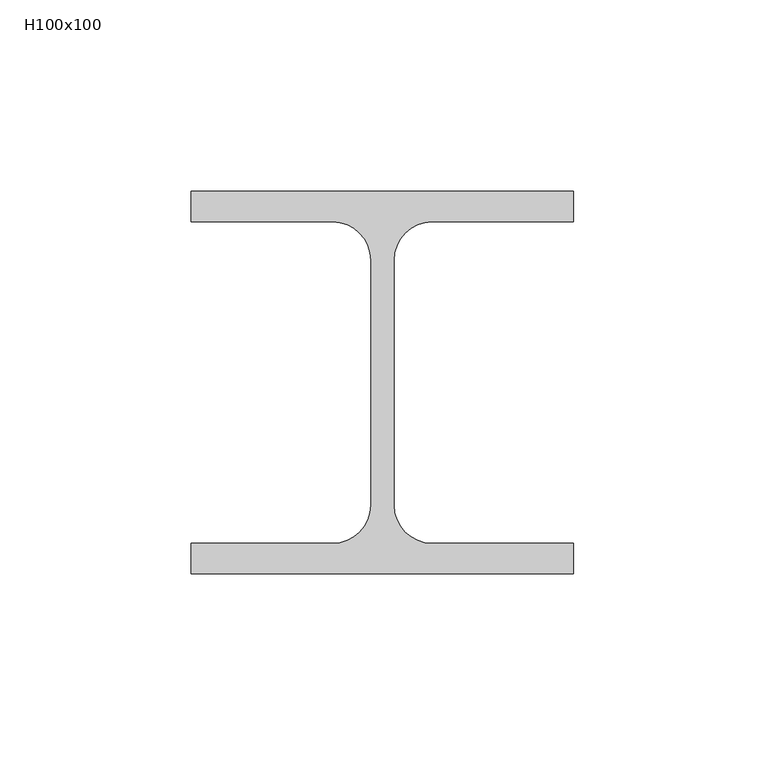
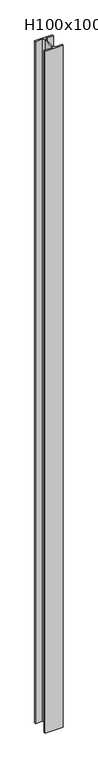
"""IFC4 building model written with IfcOpenShell, lengths in millimetres: column geometry, H 型鋼柱 : H100x100."""

from ifc_helpers import new_model, si_unit, point, frame_2d, origin, origin_with_axes, place, context, project, spatial, polyline, circle_curve, trimmed, segment, composite_curve, outline, extrude, source, transform, mapped, element, save


def h100x100_6f83902f(model_context):
    return source(origin(), model_context, "Body", "SweptSolid", [
        extrude(outline(composite_curve([segment(polyline([(50.0, 50.0), (50.0, 42.0), (13.0, 42.0)]), True, "CONTINUOUS"), segment(trimmed(circle_curve(frame_2d((13.0, 32.0)), 10.0), [point((13.0, 42.0))], [point((3.0, 32.0))], True, "CARTESIAN"), True, "CONTINUOUS"), segment(polyline([(3.0, 32.0), (3.0, -32.0)]), True, "CONTINUOUS"), segment(trimmed(circle_curve(frame_2d((13.0, -32.0)), 10.0), [point((3.0, -32.0))], [point((13.0, -42.0))], True, "CARTESIAN"), True, "CONTINUOUS"), segment(polyline([(13.0, -42.0), (50.0, -42.0), (50.0, -50.0), (-50.0, -50.0), (-50.0, -42.0), (-13.0, -42.0)]), True, "CONTINUOUS"), segment(trimmed(circle_curve(frame_2d((-13.0, -32.0)), 10.0), [point((-13.0, -42.0))], [point((-3.0, -32.0))], True, "CARTESIAN"), True, "CONTINUOUS"), segment(polyline([(-3.0, -32.0), (-3.0, 32.0)]), True, "CONTINUOUS"), segment(trimmed(circle_curve(frame_2d((-13.0, 32.0)), 10.0), [point((-3.0, 32.0))], [point((-13.0, 42.0))], True, "CARTESIAN"), True, "CONTINUOUS"), segment(polyline([(-13.0, 42.0), (-50.0, 42.0), (-50.0, 50.0), (50.0, 50.0)]), True, "CONTINUOUS")], self_intersect=False)), origin_with_axes(), (0.0, 0.0, 1.0), 4000.0),
    ])


if __name__ == "__main__":
    model = new_model("IFC4")
    model_context = context("Model", 3, world=origin())
    ifc_project = project(units=[si_unit("LENGTHUNIT", "METRE", prefix="MILLI")], contexts=[model_context])
    site = spatial("IfcSite", under=ifc_project)
    building = spatial("IfcBuilding", under=site)
    placement = place(None, origin())
    h100x100_shape = h100x100_6f83902f(model_context)
    element("IfcColumn", 1, ObjectType="H 型鋼柱 : H100x100", at=placement, inside=building, context=model_context, shape_type="MappedRepresentation", body=[
        mapped(h100x100_shape, transform((0.0, 0.0, 0.0), x_axis=(1.0, 0.0, 0.0), y_axis=(0.0, 1.0, 0.0), z_axis=(0.0, 0.0, 1.0))),
    ])
    save(model, "model.ifc")
